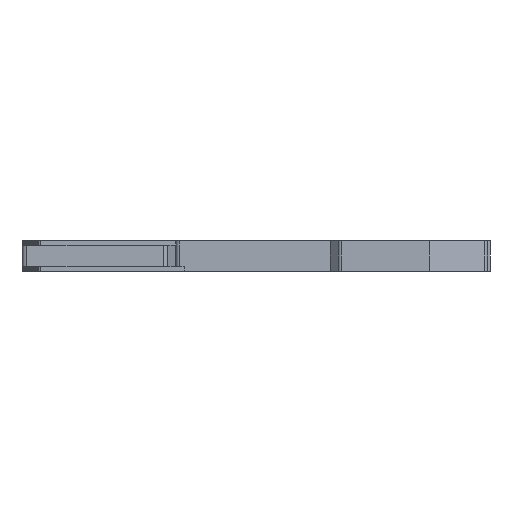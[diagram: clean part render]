
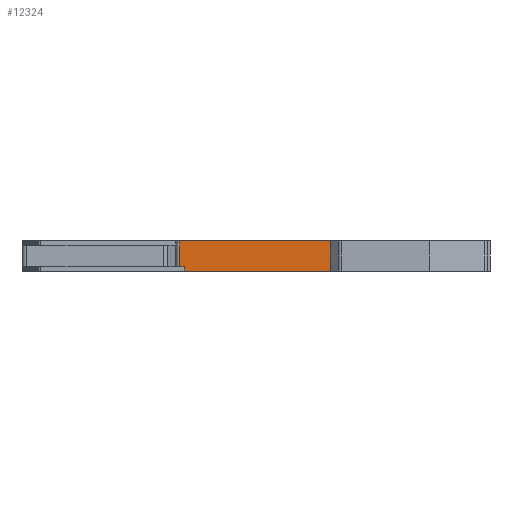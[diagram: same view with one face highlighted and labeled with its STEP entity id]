
A CAD part, front view. The second image highlights one B-rep face of the part: STEP entity #12324.
In plain terms, the highlighted planar face has unit normal (0, -1, 0).
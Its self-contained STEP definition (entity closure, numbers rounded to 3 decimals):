
#93 = VECTOR ( 'NONE', #31973, 1000. ) ;
#384 = LINE ( 'NONE', #35952, #21738 ) ;
#413 = EDGE_CURVE ( 'NONE', #15110, #28248, #30491, .T. ) ;
#520 = VERTEX_POINT ( 'NONE', #21268 ) ;
#1513 = VERTEX_POINT ( 'NONE', #31041 ) ;
#2347 = VECTOR ( 'NONE', #11963, 1000. ) ;
#2454 = LINE ( 'NONE', #9456, #16348 ) ;
#2711 = CARTESIAN_POINT ( 'NONE',  ( 19.006, -21.36, 6.2 ) ) ;
#4513 = DIRECTION ( 'NONE',  ( 0., 0., -1. ) ) ;
#4619 = VECTOR ( 'NONE', #19194, 1000. ) ;
#5381 = ORIENTED_EDGE ( 'NONE', *, *, #413, .F. ) ;
#5979 = ORIENTED_EDGE ( 'NONE', *, *, #23480, .F. ) ;
#6327 = EDGE_LOOP ( 'NONE', ( #20944, #5979, #16866, #33733, #5381, #17846 ) ) ;
#6603 = CARTESIAN_POINT ( 'NONE',  ( 19.006, -21.36, 0. ) ) ;
#6674 = DIRECTION ( 'NONE',  ( 0., 0., -1. ) ) ;
#9456 = CARTESIAN_POINT ( 'NONE',  ( -14.058, -21.36, 5.3 ) ) ;
#10007 = CARTESIAN_POINT ( 'NONE',  ( -13.094, -21.36, 5.3 ) ) ;
#10321 = EDGE_CURVE ( 'NONE', #15110, #1513, #15094, .T. ) ;
#11074 = AXIS2_PLACEMENT_3D ( 'NONE', #29273, #32048, #15437 ) ;
#11963 = DIRECTION ( 'NONE',  ( 1., 0., 0. ) ) ;
#12219 = EDGE_CURVE ( 'NONE', #1513, #35136, #17126, .T. ) ;
#12324 = ADVANCED_FACE ( 'NONE', ( #21953 ), #26541, .F. ) ;
#14237 = VECTOR ( 'NONE', #4513, 1000. ) ;
#15094 = LINE ( 'NONE', #10007, #14237 ) ;
#15110 = VERTEX_POINT ( 'NONE', #29072 ) ;
#15437 = DIRECTION ( 'NONE',  ( 1., 0., 0. ) ) ;
#16348 = VECTOR ( 'NONE', #6674, 1000. ) ;
#16866 = ORIENTED_EDGE ( 'NONE', *, *, #28691, .F. ) ;
#17126 = LINE ( 'NONE', #6603, #2347 ) ;
#17846 = ORIENTED_EDGE ( 'NONE', *, *, #10321, .T. ) ;
#19194 = DIRECTION ( 'NONE',  ( 0., 0., -1. ) ) ;
#19532 = DIRECTION ( 'NONE',  ( 1., 0., 0. ) ) ;
#20049 = CARTESIAN_POINT ( 'NONE',  ( -14.058, -21.36, 0.9 ) ) ;
#20944 = ORIENTED_EDGE ( 'NONE', *, *, #12219, .T. ) ;
#21268 = CARTESIAN_POINT ( 'NONE',  ( -14.058, -21.36, 6.2 ) ) ;
#21738 = VECTOR ( 'NONE', #19532, 1000. ) ;
#21953 = FACE_OUTER_BOUND ( 'NONE', #6327, .T. ) ;
#22638 = CARTESIAN_POINT ( 'NONE',  ( 19.006, -21.36, 0. ) ) ;
#23480 = EDGE_CURVE ( 'NONE', #27541, #35136, #25986, .T. ) ;
#23928 = CARTESIAN_POINT ( 'NONE',  ( 19.006, -21.36, 0.9 ) ) ;
#25986 = LINE ( 'NONE', #35731, #4619 ) ;
#26541 = PLANE ( 'NONE',  #11074 ) ;
#27541 = VERTEX_POINT ( 'NONE', #2711 ) ;
#28248 = VERTEX_POINT ( 'NONE', #20049 ) ;
#28691 = EDGE_CURVE ( 'NONE', #520, #27541, #384, .T. ) ;
#29072 = CARTESIAN_POINT ( 'NONE',  ( -13.094, -21.36, 0.9 ) ) ;
#29273 = CARTESIAN_POINT ( 'NONE',  ( 8.906, -21.36, 6.2 ) ) ;
#30094 = EDGE_CURVE ( 'NONE', #520, #28248, #2454, .T. ) ;
#30491 = LINE ( 'NONE', #23928, #93 ) ;
#31041 = CARTESIAN_POINT ( 'NONE',  ( -13.094, -21.36, 0. ) ) ;
#31973 = DIRECTION ( 'NONE',  ( -1., 0., 0. ) ) ;
#32048 = DIRECTION ( 'NONE',  ( 0., 1., 0. ) ) ;
#33733 = ORIENTED_EDGE ( 'NONE', *, *, #30094, .T. ) ;
#35136 = VERTEX_POINT ( 'NONE', #22638 ) ;
#35731 = CARTESIAN_POINT ( 'NONE',  ( 19.006, -21.36, 6.2 ) ) ;
#35952 = CARTESIAN_POINT ( 'NONE',  ( -13.594, -21.36, 6.2 ) ) ;
